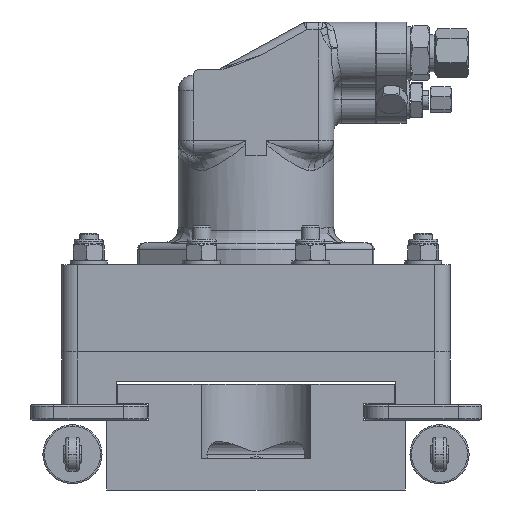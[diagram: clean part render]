
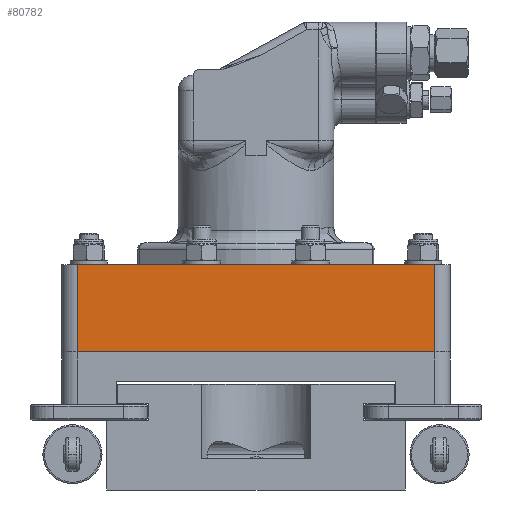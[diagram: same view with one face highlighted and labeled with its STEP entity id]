
A CAD part, front view. The second image highlights one B-rep face of the part: STEP entity #80782.
In plain terms, the highlighted planar face has unit normal (0, -1, 0).
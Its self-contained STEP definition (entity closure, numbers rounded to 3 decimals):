
#668 = EDGE_CURVE ( 'NONE', #76385, #672, #12143, .T. ) ;
#672 = VERTEX_POINT ( 'NONE', #12123 ) ;
#12123 = CARTESIAN_POINT ( 'NONE',  ( 115., -230., 56. ) ) ;
#12136 = DIRECTION ( 'NONE',  ( 1., 0., 0. ) ) ;
#12139 = VECTOR ( 'NONE', #12136, 1000. ) ;
#12141 = CARTESIAN_POINT ( 'NONE',  ( -115., -230., 56. ) ) ;
#12143 = LINE ( 'NONE', #12141, #12139 ) ;
#41669 = CARTESIAN_POINT ( 'NONE',  ( -115., -230., 56. ) ) ;
#42162 = CARTESIAN_POINT ( 'NONE',  ( 115., -230., 56. ) ) ;
#42163 = LINE ( 'NONE', #42162, #42219 ) ;
#42167 = CARTESIAN_POINT ( 'NONE',  ( -115., -230., 0. ) ) ;
#42168 = AXIS2_PLACEMENT_3D ( 'NONE', #42172, #42206, #42205 ) ;
#42172 = CARTESIAN_POINT ( 'NONE',  ( -115., -230., 56. ) ) ;
#42174 = FACE_OUTER_BOUND ( 'NONE', #80788, .T. ) ;
#42191 = LINE ( 'NONE', #42204, #42209 ) ;
#42202 = CARTESIAN_POINT ( 'NONE',  ( 115., -230., 0. ) ) ;
#42203 = DIRECTION ( 'NONE',  ( 0., 0., -1. ) ) ;
#42204 = CARTESIAN_POINT ( 'NONE',  ( -115., -230., 56. ) ) ;
#42205 = DIRECTION ( 'NONE',  ( 0., 0., 1. ) ) ;
#42206 = DIRECTION ( 'NONE',  ( 0., 1., 0. ) ) ;
#42209 = VECTOR ( 'NONE', #42203, 1000. ) ;
#42211 = PLANE ( 'NONE',  #42168 ) ;
#42212 = DIRECTION ( 'NONE',  ( 1., 0., 0. ) ) ;
#42213 = VECTOR ( 'NONE', #42212, 1000. ) ;
#42214 = CARTESIAN_POINT ( 'NONE',  ( -115., -230., 0. ) ) ;
#42215 = LINE ( 'NONE', #42214, #42213 ) ;
#42218 = DIRECTION ( 'NONE',  ( 0., 0., -1. ) ) ;
#42219 = VECTOR ( 'NONE', #42218, 1000. ) ;
#76385 = VERTEX_POINT ( 'NONE', #41669 ) ;
#80779 = VERTEX_POINT ( 'NONE', #42167 ) ;
#80780 = EDGE_CURVE ( 'NONE', #672, #80790, #42163, .T. ) ;
#80781 = EDGE_CURVE ( 'NONE', #80779, #80790, #42215, .T. ) ;
#80782 = ADVANCED_FACE ( 'NONE', ( #42174 ), #42211, .F. ) ;
#80787 = ORIENTED_EDGE ( 'NONE', *, *, #80792, .T. ) ;
#80788 = EDGE_LOOP ( 'NONE', ( #80791, #80793, #80795, #80787 ) ) ;
#80790 = VERTEX_POINT ( 'NONE', #42202 ) ;
#80791 = ORIENTED_EDGE ( 'NONE', *, *, #80781, .T. ) ;
#80792 = EDGE_CURVE ( 'NONE', #76385, #80779, #42191, .T. ) ;
#80793 = ORIENTED_EDGE ( 'NONE', *, *, #80780, .F. ) ;
#80795 = ORIENTED_EDGE ( 'NONE', *, *, #668, .F. ) ;
